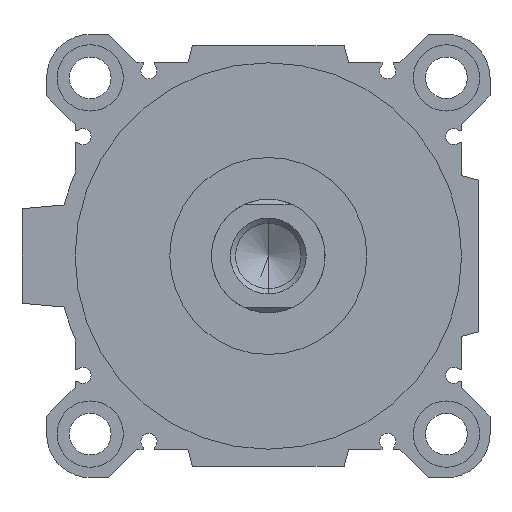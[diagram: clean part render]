
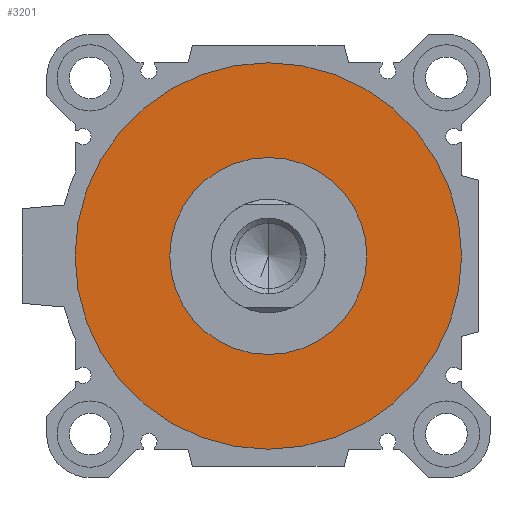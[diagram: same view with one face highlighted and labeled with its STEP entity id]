
A CAD part, left-side view. The second image highlights one B-rep face of the part: STEP entity #3201.
In plain terms, the highlighted planar face has unit normal (-1, 0, 0).
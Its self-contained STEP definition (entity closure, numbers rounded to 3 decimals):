
#178 = CARTESIAN_POINT ( 'NONE',  ( 6.5, 0., 0. ) ) ;
#244 = CIRCLE ( 'NONE', #5214, 51. ) ;
#250 = VERTEX_POINT ( 'NONE', #4650 ) ;
#570 = CIRCLE ( 'NONE', #2423, 26. ) ;
#602 = DIRECTION ( 'NONE',  ( 0., 1., 0. ) ) ;
#876 = ORIENTED_EDGE ( 'NONE', *, *, #3393, .F. ) ;
#903 = DIRECTION ( 'NONE',  ( 1., 0., 0. ) ) ;
#910 = ORIENTED_EDGE ( 'NONE', *, *, #4834, .T. ) ;
#976 = CIRCLE ( 'NONE', #2631, 26. ) ;
#1089 = EDGE_CURVE ( 'NONE', #1964, #1189, #570, .T. ) ;
#1189 = VERTEX_POINT ( 'NONE', #1297 ) ;
#1297 = CARTESIAN_POINT ( 'NONE',  ( 6.5, 0., 26. ) ) ;
#1464 = PLANE ( 'NONE',  #3590 ) ;
#1568 = DIRECTION ( 'NONE',  ( 1., 0., 0. ) ) ;
#1710 = ORIENTED_EDGE ( 'NONE', *, *, #2554, .F. ) ;
#1932 = DIRECTION ( 'NONE',  ( 1., 0., 0. ) ) ;
#1962 = CARTESIAN_POINT ( 'NONE',  ( 6.5, 0., 0. ) ) ;
#1964 = VERTEX_POINT ( 'NONE', #3805 ) ;
#2314 = DIRECTION ( 'NONE',  ( 0., 0., -1. ) ) ;
#2423 = AXIS2_PLACEMENT_3D ( 'NONE', #5053, #4636, #2923 ) ;
#2478 = EDGE_LOOP ( 'NONE', ( #910, #3297 ) ) ;
#2554 = EDGE_CURVE ( 'NONE', #4146, #250, #5154, .T. ) ;
#2631 = AXIS2_PLACEMENT_3D ( 'NONE', #3777, #903, #3364 ) ;
#2923 = DIRECTION ( 'NONE',  ( 0., 0., -1. ) ) ;
#3201 = ADVANCED_FACE ( 'NONE', ( #4409, #3959 ), #1464, .F. ) ;
#3279 = AXIS2_PLACEMENT_3D ( 'NONE', #178, #1568, #4904 ) ;
#3297 = ORIENTED_EDGE ( 'NONE', *, *, #1089, .T. ) ;
#3364 = DIRECTION ( 'NONE',  ( 0., 0., -1. ) ) ;
#3393 = EDGE_CURVE ( 'NONE', #250, #4146, #244, .T. ) ;
#3590 = AXIS2_PLACEMENT_3D ( 'NONE', #3909, #5169, #602 ) ;
#3621 = CARTESIAN_POINT ( 'NONE',  ( 6.5, 0., 51. ) ) ;
#3655 = EDGE_LOOP ( 'NONE', ( #1710, #876 ) ) ;
#3777 = CARTESIAN_POINT ( 'NONE',  ( 6.5, 0., 0. ) ) ;
#3805 = CARTESIAN_POINT ( 'NONE',  ( 6.5, 0., -26. ) ) ;
#3909 = CARTESIAN_POINT ( 'NONE',  ( 6.5, 0., 0. ) ) ;
#3959 = FACE_BOUND ( 'NONE', #2478, .T. ) ;
#4146 = VERTEX_POINT ( 'NONE', #3621 ) ;
#4409 = FACE_OUTER_BOUND ( 'NONE', #3655, .T. ) ;
#4636 = DIRECTION ( 'NONE',  ( 1., 0., 0. ) ) ;
#4650 = CARTESIAN_POINT ( 'NONE',  ( 6.5, 0., -51. ) ) ;
#4834 = EDGE_CURVE ( 'NONE', #1189, #1964, #976, .T. ) ;
#4904 = DIRECTION ( 'NONE',  ( 0., 0., -1. ) ) ;
#5053 = CARTESIAN_POINT ( 'NONE',  ( 6.5, 0., 0. ) ) ;
#5154 = CIRCLE ( 'NONE', #3279, 51. ) ;
#5169 = DIRECTION ( 'NONE',  ( 1., 0., 0. ) ) ;
#5214 = AXIS2_PLACEMENT_3D ( 'NONE', #1962, #1932, #2314 ) ;
